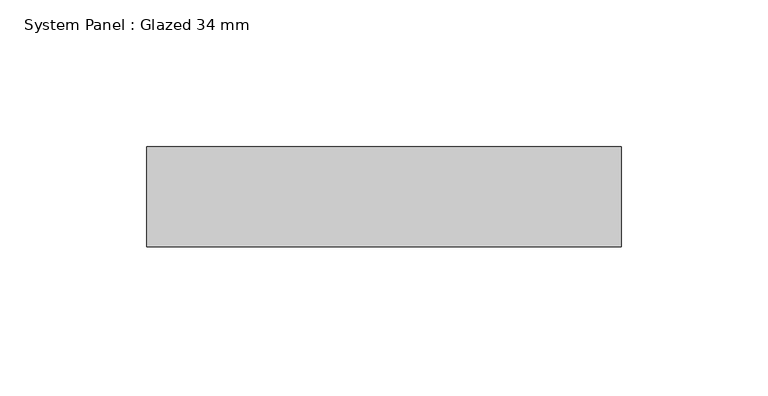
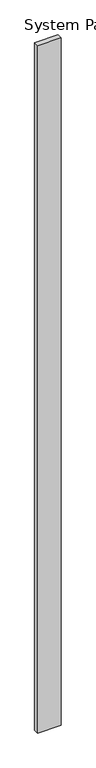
"""IFC4 building model written with IfcOpenShell, lengths in millimetres: plate geometry, System Panel : Glazed 34 mm."""

from ifc_helpers import new_model, si_unit, origin, origin_with_axes, place, context, project, spatial, polyline, outline, extrude, source, transform, mapped, element, save


def system_panel_glazed_34_mm_90ccc8ea(model_context):
    return source(origin(), model_context, "Body", "SweptSolid", [
        extrude(outline(polyline([(80.85, -17.0), (-80.85, -17.0), (-80.85, 17.0), (80.85, 17.0), (80.85, -17.0)])), origin_with_axes(), (0.0, 0.0, 1.0), 5000.0),
    ])


if __name__ == "__main__":
    model = new_model("IFC4")
    model_context = context("Model", 3, world=origin())
    ifc_project = project(units=[si_unit("LENGTHUNIT", "METRE", prefix="MILLI")], contexts=[model_context])
    site = spatial("IfcSite", under=ifc_project)
    building = spatial("IfcBuilding", under=site)
    placement = place(None, origin())
    system_panel_glazed_34_mm_shape = system_panel_glazed_34_mm_90ccc8ea(model_context)
    element("IfcPlate", 1, ObjectType="System Panel : Glazed 34 mm", at=placement, inside=building, context=model_context, shape_type="MappedRepresentation", body=[
        mapped(system_panel_glazed_34_mm_shape, transform((0.0, 0.0, 0.0), x_axis=(1.0, 0.0, 0.0), y_axis=(0.0, 1.0, 0.0), z_axis=(0.0, 0.0, 1.0))),
    ])
    save(model, "model.ifc")
